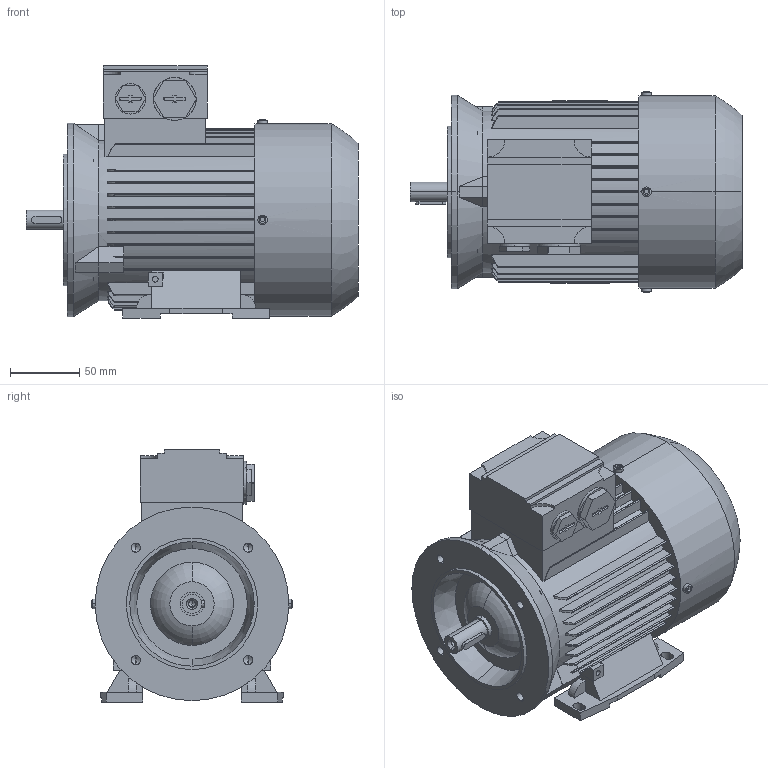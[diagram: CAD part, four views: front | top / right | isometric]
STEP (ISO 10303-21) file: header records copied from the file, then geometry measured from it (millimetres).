
FILE_DESCRIPTION (( 'STEP AP214' ), '1' );
FILE_NAME ('5RN71M02E23 IM2181-B FT115.STEP', '2022-08-22T06:57:30', ( '' ), ( '' ), 'SwSTEP 2.0', 'SolidWorks 2021', '' );
FILE_SCHEMA (( 'AUTOMOTIVE_DESIGN' ));
Length unit declared in the file: millimetre
Products named in the file (1): 5RN71M02E23 IM2181-B FT115
Bounding box: 240 x 145 x 182.29 mm (x, y, z)
Volume: 2990608.8 mm3; surface area: 208548.8 mm2
Topology: 1 solids, 1 shells, 542 faces, 1501 edges, 977 vertices
Faces by surface type: plane 332, cylinder 150, torus 34, cone 26
Entity records: 18884 total; most frequent: CARTESIAN_POINT 4741, ORIENTED_EDGE 2982, DIRECTION 2851, EDGE_CURVE 1491, VERTEX_POINT 977, AXIS2_PLACEMENT_3D 956, VECTOR 939, LINE 939
